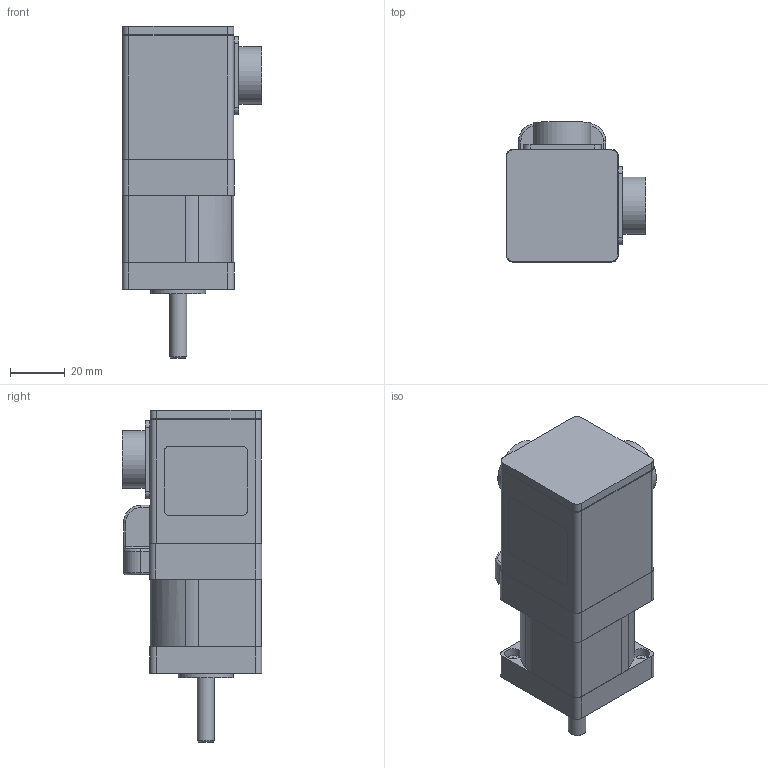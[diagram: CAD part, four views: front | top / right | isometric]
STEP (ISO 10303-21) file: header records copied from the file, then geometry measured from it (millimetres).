
FILE_DESCRIPTION((''),'2;1');
FILE_NAME('C:\CAD_work\Dummy_Modeling_Project_02-12-05\3D MODELS\BE162_MS_TQ.stp','2005-12-20T15:29:06',('jevans'),(''),'Autodesk Inventor 10','Autodesk Inventor 10','');
FILE_SCHEMA(('AUTOMOTIVE_DESIGN { 1 0 10303 214 1 1 1 1 }'));
Length unit declared in the file: inch
Products named in the file (1): BE16_MS_TQ
Bounding box: 50.98 x 50.98 x 121.23 mm (x, y, z)
Volume: 165845.9 mm3; surface area: 25982.3 mm2
Topology: 1 solids, 1 shells, 257 faces, 602 edges, 372 vertices
Faces by surface type: cylinder 119, plane 106, sphere 12, torus 9, bspline 9, cone 2
Full cylindrical faces by diameter (mm): 1.7 x2, 1.905 x26, 2.54 x4, 6.35 x1, 8.992 x1, 11.176 x1, 15.697 x1, 17 x1, 17.018 x2, 17.653 x1, 18.009 x1, 20.015 x1, 20.904 x2
Entity records: 6943 total; most frequent: DIRECTION 1270, CARTESIAN_POINT 1248, ORIENTED_EDGE 1020, AXIS2_PLACEMENT_3D 511, EDGE_CURVE 510, EDGE_LOOP 366, VERTEX_POINT 356, CIRCLE 262
